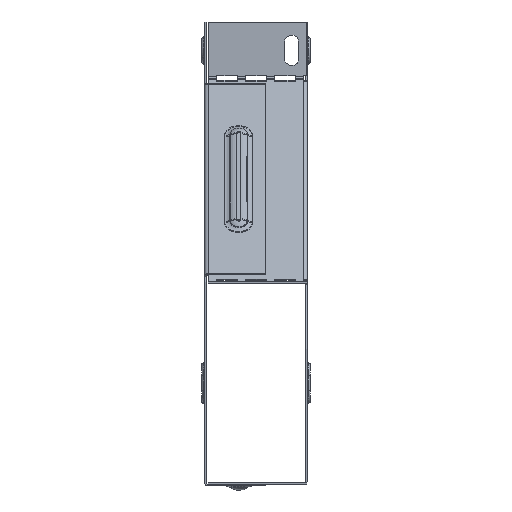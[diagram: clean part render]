
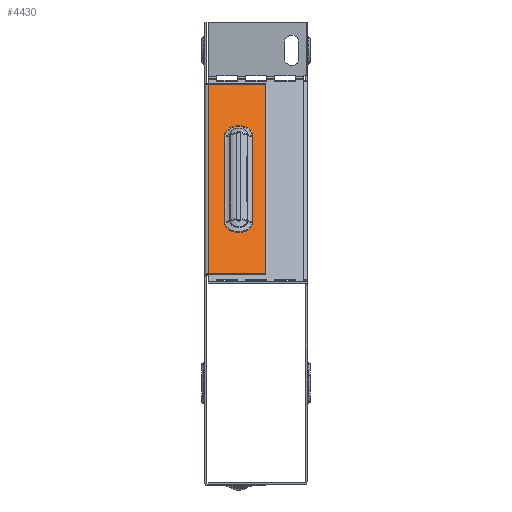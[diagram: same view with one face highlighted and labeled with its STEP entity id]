
A CAD part, left-side view. The second image highlights one B-rep face of the part: STEP entity #4430.
In plain terms, the highlighted planar face has unit normal (-0.707, 0, 0.707).
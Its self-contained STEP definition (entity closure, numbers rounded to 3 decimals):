
#225 = VERTEX_POINT ( 'NONE', #17464 ) ;
#229 = DIRECTION ( 'NONE',  ( -0.707, 0., -0.707 ) ) ;
#345 = CARTESIAN_POINT ( 'NONE',  ( -53.96, 50.8, 197.917 ) ) ;
#488 = CIRCLE ( 'NONE', #11820, 6.917 ) ;
#948 = EDGE_LOOP ( 'NONE', ( #14651, #11512, #14237, #12075 ) ) ;
#1366 = DIRECTION ( 'NONE',  ( 0.707, 0., -0.707 ) ) ;
#1657 = VECTOR ( 'NONE', #8980, 1000. ) ;
#2818 = AXIS2_PLACEMENT_3D ( 'NONE', #20457, #4380, #2901 ) ;
#2901 = DIRECTION ( 'NONE',  ( -0.5, 0.707, -0.5 ) ) ;
#3070 = CARTESIAN_POINT ( 'NONE',  ( -51.838, 49., 200.038 ) ) ;
#3345 = LINE ( 'NONE', #3070, #19998 ) ;
#3373 = LINE ( 'NONE', #3613, #10982 ) ;
#3613 = CARTESIAN_POINT ( 'NONE',  ( -79.725, 40.817, 172.152 ) ) ;
#4224 = VERTEX_POINT ( 'NONE', #6480 ) ;
#4380 = DIRECTION ( 'NONE',  ( 0.707, 0., -0.707 ) ) ;
#4430 = ADVANCED_FACE ( 'NONE', ( #5337, #16957 ), #16921, .F. ) ;
#4605 = ORIENTED_EDGE ( 'NONE', *, *, #7407, .F. ) ;
#4686 = EDGE_CURVE ( 'NONE', #9815, #18743, #488, .T. ) ;
#5037 = DIRECTION ( 'NONE',  ( 0.707, 0., 0.707 ) ) ;
#5337 = FACE_BOUND ( 'NONE', #948, .T. ) ;
#5796 = LINE ( 'NONE', #14753, #16409 ) ;
#5943 = VECTOR ( 'NONE', #6723, 1000. ) ;
#6459 = CARTESIAN_POINT ( 'NONE',  ( -122.152, 26.983, 129.725 ) ) ;
#6480 = CARTESIAN_POINT ( 'NONE',  ( -53.96, 20.8, 197.917 ) ) ;
#6723 = DIRECTION ( 'NONE',  ( 0., -1., 0. ) ) ;
#6774 = CARTESIAN_POINT ( 'NONE',  ( -147.917, 49., 103.96 ) ) ;
#7018 = VERTEX_POINT ( 'NONE', #6774 ) ;
#7407 = EDGE_CURVE ( 'NONE', #18600, #7018, #18843, .T. ) ;
#7574 = CARTESIAN_POINT ( 'NONE',  ( -147.917, 51.899, 103.96 ) ) ;
#8980 = DIRECTION ( 'NONE',  ( 0., 1., 0. ) ) ;
#9815 = VERTEX_POINT ( 'NONE', #6459 ) ;
#10455 = VERTEX_POINT ( 'NONE', #12400 ) ;
#10535 = LINE ( 'NONE', #19201, #12807 ) ;
#10810 = VERTEX_POINT ( 'NONE', #11733 ) ;
#10941 = EDGE_LOOP ( 'NONE', ( #4605, #19417, #19986, #13917 ) ) ;
#10982 = VECTOR ( 'NONE', #19982, 1000. ) ;
#11512 = ORIENTED_EDGE ( 'NONE', *, *, #13339, .T. ) ;
#11733 = CARTESIAN_POINT ( 'NONE',  ( -79.725, 26.983, 172.152 ) ) ;
#11820 = AXIS2_PLACEMENT_3D ( 'NONE', #12911, #1366, #17550 ) ;
#11891 = EDGE_CURVE ( 'NONE', #7018, #225, #3345, .T. ) ;
#11999 = DIRECTION ( 'NONE',  ( -0.707, 0., -0.707 ) ) ;
#12073 = CARTESIAN_POINT ( 'NONE',  ( -125.938, 50.8, 125.938 ) ) ;
#12075 = ORIENTED_EDGE ( 'NONE', *, *, #4686, .T. ) ;
#12400 = CARTESIAN_POINT ( 'NONE',  ( -79.725, 40.817, 172.152 ) ) ;
#12807 = VECTOR ( 'NONE', #17654, 1000. ) ;
#12911 = CARTESIAN_POINT ( 'NONE',  ( -122.152, 33.9, 129.725 ) ) ;
#13339 = EDGE_CURVE ( 'NONE', #10455, #10810, #17948, .T. ) ;
#13525 = LINE ( 'NONE', #345, #5943 ) ;
#13734 = CARTESIAN_POINT ( 'NONE',  ( -147.917, 20.8, 103.96 ) ) ;
#13917 = ORIENTED_EDGE ( 'NONE', *, *, #11891, .F. ) ;
#14027 = EDGE_CURVE ( 'NONE', #10810, #9815, #5796, .T. ) ;
#14237 = ORIENTED_EDGE ( 'NONE', *, *, #14027, .T. ) ;
#14651 = ORIENTED_EDGE ( 'NONE', *, *, #20875, .T. ) ;
#14753 = CARTESIAN_POINT ( 'NONE',  ( -79.725, 26.983, 172.152 ) ) ;
#16409 = VECTOR ( 'NONE', #229, 1000. ) ;
#16413 = AXIS2_PLACEMENT_3D ( 'NONE', #12073, #16776, #11999 ) ;
#16776 = DIRECTION ( 'NONE',  ( 0.707, 0., -0.707 ) ) ;
#16921 = PLANE ( 'NONE',  #16413 ) ;
#16957 = FACE_OUTER_BOUND ( 'NONE', #10941, .T. ) ;
#17464 = CARTESIAN_POINT ( 'NONE',  ( -53.96, 49., 197.917 ) ) ;
#17550 = DIRECTION ( 'NONE',  ( -0.5, 0.707, -0.5 ) ) ;
#17654 = DIRECTION ( 'NONE',  ( 0.707, 0., 0.707 ) ) ;
#17948 = CIRCLE ( 'NONE', #2818, 6.917 ) ;
#18600 = VERTEX_POINT ( 'NONE', #13734 ) ;
#18743 = VERTEX_POINT ( 'NONE', #18928 ) ;
#18843 = LINE ( 'NONE', #7574, #1657 ) ;
#18928 = CARTESIAN_POINT ( 'NONE',  ( -122.152, 40.817, 129.725 ) ) ;
#18952 = EDGE_CURVE ( 'NONE', #18600, #4224, #10535, .T. ) ;
#19201 = CARTESIAN_POINT ( 'NONE',  ( -125.938, 20.8, 125.938 ) ) ;
#19417 = ORIENTED_EDGE ( 'NONE', *, *, #18952, .T. ) ;
#19982 = DIRECTION ( 'NONE',  ( 0.707, 0., 0.707 ) ) ;
#19986 = ORIENTED_EDGE ( 'NONE', *, *, #20133, .F. ) ;
#19998 = VECTOR ( 'NONE', #5037, 1000. ) ;
#20133 = EDGE_CURVE ( 'NONE', #225, #4224, #13525, .T. ) ;
#20457 = CARTESIAN_POINT ( 'NONE',  ( -79.725, 33.9, 172.152 ) ) ;
#20875 = EDGE_CURVE ( 'NONE', #18743, #10455, #3373, .T. ) ;
